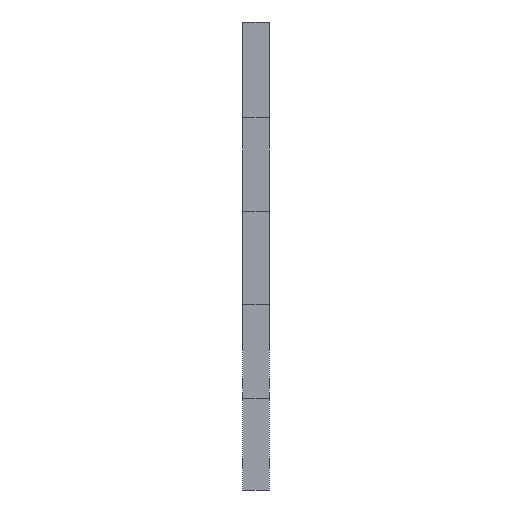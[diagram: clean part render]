
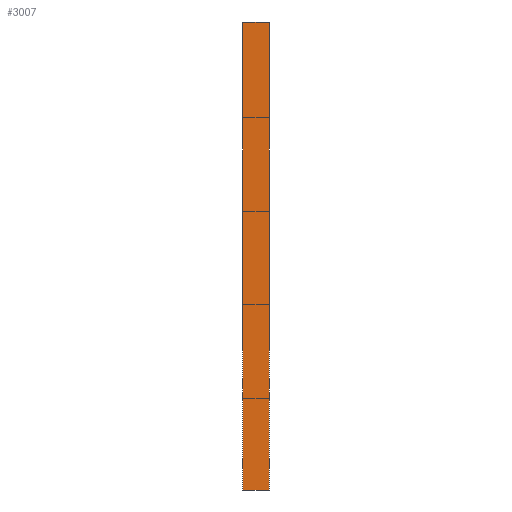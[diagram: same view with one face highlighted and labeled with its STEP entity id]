
A CAD part, front view. The second image highlights one B-rep face of the part: STEP entity #3007.
In plain terms, the highlighted planar face has unit normal (0, -1, 0).
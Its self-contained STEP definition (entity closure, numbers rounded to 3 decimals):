
#128=CARTESIAN_POINT('Line Origine',(-10.,0.,87.5)) ;
#132=CARTESIAN_POINT('Vertex',(-10.,0.,175.)) ;
#134=CARTESIAN_POINT('Vertex',(-10.,0.,0.)) ;
#946=CARTESIAN_POINT('Vertex',(0.,0.,0.)) ;
#962=CARTESIAN_POINT('Vertex',(0.,0.,175.)) ;
#965=CARTESIAN_POINT('Line Origine',(0.,0.,87.5)) ;
#2986=CARTESIAN_POINT('Axis2P3D Location',(0.,0.,175.)) ;
#2991=CARTESIAN_POINT('Line Origine',(-5.,0.,0.)) ;
#2996=CARTESIAN_POINT('Line Origine',(-5.,0.,175.)) ;
#129=DIRECTION('Vector Direction',(0.,0.,-1.)) ;
#966=DIRECTION('Vector Direction',(0.,0.,-1.)) ;
#2987=DIRECTION('Axis2P3D Direction',(0.,1.,0.)) ;
#2988=DIRECTION('Axis2P3D XDirection',(0.,0.,-1.)) ;
#2992=DIRECTION('Vector Direction',(-1.,0.,0.)) ;
#2997=DIRECTION('Vector Direction',(-1.,0.,0.)) ;
#2989=AXIS2_PLACEMENT_3D('Plane Axis2P3D',#2986,#2987,#2988) ;
#3002=ORIENTED_EDGE('',*,*,#136,.T.) ;
#3003=ORIENTED_EDGE('',*,*,#2995,.F.) ;
#3004=ORIENTED_EDGE('',*,*,#969,.F.) ;
#3005=ORIENTED_EDGE('',*,*,#3000,.T.) ;
#130=VECTOR('Line Direction',#129,1.) ;
#967=VECTOR('Line Direction',#966,1.) ;
#2993=VECTOR('Line Direction',#2992,1.) ;
#2998=VECTOR('Line Direction',#2997,1.) ;
#3007=ADVANCED_FACE('Corps principal',(#3006),#2990,.F.) ;
#136=EDGE_CURVE('',#133,#135,#131,.T.) ;
#969=EDGE_CURVE('',#963,#947,#968,.T.) ;
#2995=EDGE_CURVE('',#947,#135,#2994,.T.) ;
#3000=EDGE_CURVE('',#963,#133,#2999,.T.) ;
#3001=EDGE_LOOP('',(#3002,#3003,#3004,#3005)) ;
#3006=FACE_OUTER_BOUND('',#3001,.T.) ;
#131=LINE('Line',#128,#130) ;
#968=LINE('Line',#965,#967) ;
#2994=LINE('Line',#2991,#2993) ;
#2999=LINE('Line',#2996,#2998) ;
#2990=PLANE('Plane',#2989) ;
#133=VERTEX_POINT('',#132) ;
#135=VERTEX_POINT('',#134) ;
#947=VERTEX_POINT('',#946) ;
#963=VERTEX_POINT('',#962) ;
